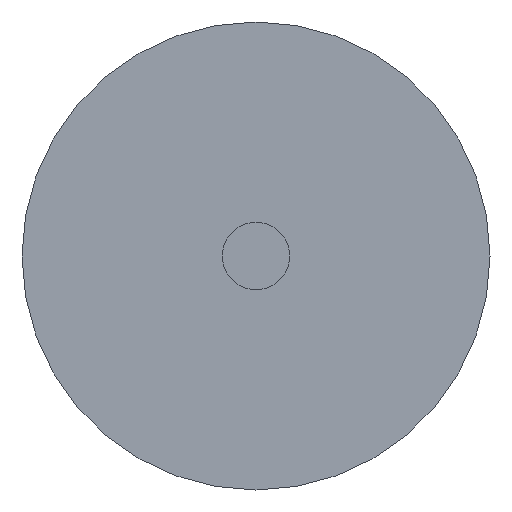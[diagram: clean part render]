
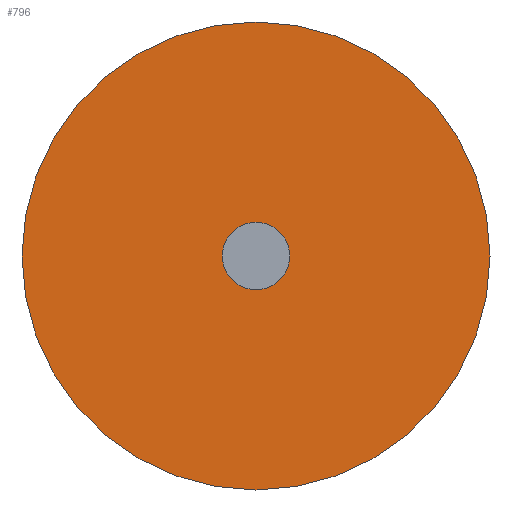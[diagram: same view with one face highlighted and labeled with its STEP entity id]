
A CAD part, left-side view. The second image highlights one B-rep face of the part: STEP entity #796.
In plain terms, the highlighted planar face has unit normal (-1, 0, 0).
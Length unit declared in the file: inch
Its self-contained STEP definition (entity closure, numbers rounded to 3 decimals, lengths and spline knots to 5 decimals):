
#5 = DIRECTION ( 'NONE',  ( 0., 0., 1. ) ) ;
#111 = EDGE_LOOP ( 'NONE', ( #745, #438 ) ) ;
#187 = VERTEX_POINT ( 'NONE', #758 ) ;
#212 = AXIS2_PLACEMENT_3D ( 'NONE', #318, #622, #955 ) ;
#216 = CARTESIAN_POINT ( 'NONE',  ( 0., 0., 0. ) ) ;
#245 = EDGE_CURVE ( 'NONE', #430, #339, #588, .T. ) ;
#261 = DIRECTION ( 'NONE',  ( 0., 0., 1. ) ) ;
#290 = AXIS2_PLACEMENT_3D ( 'NONE', #641, #973, #261 ) ;
#310 = DIRECTION ( 'NONE',  ( -1., 0., 0. ) ) ;
#318 = CARTESIAN_POINT ( 'NONE',  ( 0., 0., 0. ) ) ;
#339 = VERTEX_POINT ( 'NONE', #854 ) ;
#372 = CIRCLE ( 'NONE', #949, 0.0225 ) ;
#396 = FACE_BOUND ( 'NONE', #111, .T. ) ;
#430 = VERTEX_POINT ( 'NONE', #741 ) ;
#438 = ORIENTED_EDGE ( 'NONE', *, *, #467, .F. ) ;
#448 = CARTESIAN_POINT ( 'NONE',  ( 0., 0., 0. ) ) ;
#467 = EDGE_CURVE ( 'NONE', #187, #504, #372, .T. ) ;
#471 = AXIS2_PLACEMENT_3D ( 'NONE', #1025, #310, #610 ) ;
#483 = EDGE_LOOP ( 'NONE', ( #962, #1055 ) ) ;
#486 = AXIS2_PLACEMENT_3D ( 'NONE', #216, #533, #844 ) ;
#504 = VERTEX_POINT ( 'NONE', #862 ) ;
#533 = DIRECTION ( 'NONE',  ( -1., 0., 0. ) ) ;
#588 = CIRCLE ( 'NONE', #471, 0.15598 ) ;
#610 = DIRECTION ( 'NONE',  ( 0., 0., 1. ) ) ;
#622 = DIRECTION ( 'NONE',  ( 1., 0., 0. ) ) ;
#641 = CARTESIAN_POINT ( 'NONE',  ( 0., 0., 0. ) ) ;
#697 = FACE_OUTER_BOUND ( 'NONE', #483, .T. ) ;
#718 = CIRCLE ( 'NONE', #290, 0.15598 ) ;
#741 = CARTESIAN_POINT ( 'NONE',  ( 0., 0., -0.15598 ) ) ;
#745 = ORIENTED_EDGE ( 'NONE', *, *, #1016, .F. ) ;
#747 = DIRECTION ( 'NONE',  ( -1., 0., 0. ) ) ;
#758 = CARTESIAN_POINT ( 'NONE',  ( 0., 0., -0.0225 ) ) ;
#796 = ADVANCED_FACE ( 'NONE', ( #396, #697 ), #1034, .F. ) ;
#844 = DIRECTION ( 'NONE',  ( 0., 0., 1. ) ) ;
#854 = CARTESIAN_POINT ( 'NONE',  ( 0., 0., 0.15598 ) ) ;
#860 = EDGE_CURVE ( 'NONE', #339, #430, #718, .T. ) ;
#862 = CARTESIAN_POINT ( 'NONE',  ( 0., 0., 0.0225 ) ) ;
#936 = CIRCLE ( 'NONE', #486, 0.0225 ) ;
#949 = AXIS2_PLACEMENT_3D ( 'NONE', #448, #747, #5 ) ;
#955 = DIRECTION ( 'NONE',  ( 0., 0., -1. ) ) ;
#962 = ORIENTED_EDGE ( 'NONE', *, *, #860, .T. ) ;
#973 = DIRECTION ( 'NONE',  ( -1., 0., 0. ) ) ;
#1016 = EDGE_CURVE ( 'NONE', #504, #187, #936, .T. ) ;
#1025 = CARTESIAN_POINT ( 'NONE',  ( 0., 0., 0. ) ) ;
#1034 = PLANE ( 'NONE',  #212 ) ;
#1055 = ORIENTED_EDGE ( 'NONE', *, *, #245, .T. ) ;
